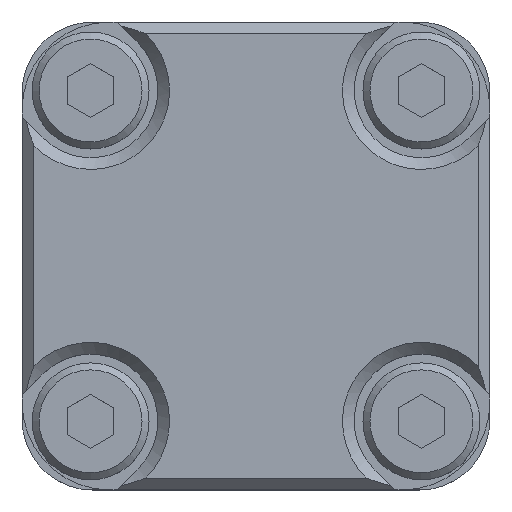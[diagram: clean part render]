
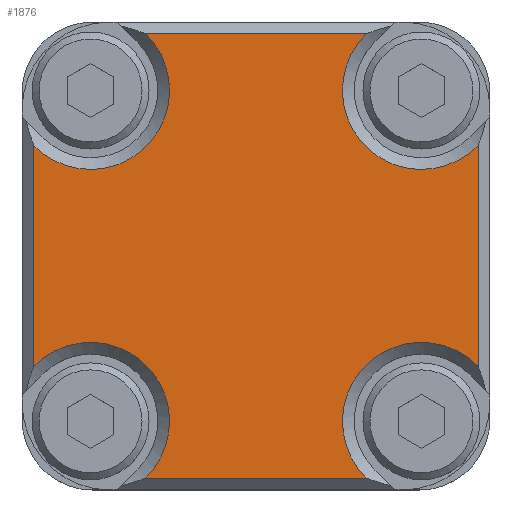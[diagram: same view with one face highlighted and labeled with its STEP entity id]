
A CAD part, top view. The second image highlights one B-rep face of the part: STEP entity #1876.
In plain terms, the highlighted planar face has unit normal (0, 0, 1).
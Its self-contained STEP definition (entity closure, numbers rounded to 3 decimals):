
#355=LINE('',#10403,#692);
#356=LINE('',#10407,#693);
#357=LINE('',#10411,#694);
#358=LINE('',#10415,#695);
#692=VECTOR('',#8433,1.);
#693=VECTOR('',#8436,1.);
#694=VECTOR('',#8439,1.);
#695=VECTOR('',#8442,1.);
#1262=FACE_OUTER_BOUND('',#2953,.T.);
#1876=ADVANCED_FACE('',(#1262),#2306,.T.);
#2306=PLANE('',#7452);
#2953=EDGE_LOOP('',(#3768,#3769,#3770,#3771,#3772,#3773,#3774,#3775));
#3768=ORIENTED_EDGE('',*,*,#6181,.T.);
#3769=ORIENTED_EDGE('',*,*,#6182,.T.);
#3770=ORIENTED_EDGE('',*,*,#6183,.T.);
#3771=ORIENTED_EDGE('',*,*,#6184,.T.);
#3772=ORIENTED_EDGE('',*,*,#6185,.T.);
#3773=ORIENTED_EDGE('',*,*,#6186,.T.);
#3774=ORIENTED_EDGE('',*,*,#6187,.T.);
#3775=ORIENTED_EDGE('',*,*,#6188,.T.);
#5471=VERTEX_POINT('',#10401);
#5472=VERTEX_POINT('',#10402);
#5473=VERTEX_POINT('',#10404);
#5474=VERTEX_POINT('',#10406);
#5475=VERTEX_POINT('',#10408);
#5476=VERTEX_POINT('',#10410);
#5477=VERTEX_POINT('',#10412);
#5478=VERTEX_POINT('',#10414);
#6181=EDGE_CURVE('',#5471,#5472,#7050,.T.);
#6182=EDGE_CURVE('',#5472,#5473,#355,.T.);
#6183=EDGE_CURVE('',#5473,#5474,#7051,.T.);
#6184=EDGE_CURVE('',#5474,#5475,#356,.T.);
#6185=EDGE_CURVE('',#5475,#5476,#7052,.T.);
#6186=EDGE_CURVE('',#5476,#5477,#357,.T.);
#6187=EDGE_CURVE('',#5477,#5478,#7053,.T.);
#6188=EDGE_CURVE('',#5478,#5471,#358,.T.);
#7050=CIRCLE('',#7448,6.75);
#7051=CIRCLE('',#7449,6.75);
#7052=CIRCLE('',#7450,6.75);
#7053=CIRCLE('',#7451,6.75);
#7448=AXIS2_PLACEMENT_3D('',#10400,#8431,#8432);
#7449=AXIS2_PLACEMENT_3D('',#10405,#8434,#8435);
#7450=AXIS2_PLACEMENT_3D('',#10409,#8437,#8438);
#7451=AXIS2_PLACEMENT_3D('',#10413,#8440,#8441);
#7452=AXIS2_PLACEMENT_3D('',#10416,#8443,#8444);
#8431=DIRECTION('',(0.,0.,-1.));
#8432=DIRECTION('',(1.,0.,0.));
#8433=DIRECTION('',(0.,1.,0.));
#8434=DIRECTION('',(0.,0.,-1.));
#8435=DIRECTION('',(0.,1.,0.));
#8436=DIRECTION('',(-1.,0.,0.));
#8437=DIRECTION('',(0.,0.,-1.));
#8438=DIRECTION('',(-1.,0.,0.));
#8439=DIRECTION('',(0.,-1.,0.));
#8440=DIRECTION('',(0.,0.,-1.));
#8441=DIRECTION('',(0.,-1.,0.));
#8442=DIRECTION('',(1.,0.,0.));
#8443=DIRECTION('',(0.,0.,1.));
#8444=DIRECTION('',(-1.,0.,0.));
#10400=CARTESIAN_POINT('',(14.142,-14.142,105.6));
#10401=CARTESIAN_POINT('',(9.456,-19.,105.6));
#10402=CARTESIAN_POINT('',(19.,-9.456,105.6));
#10403=CARTESIAN_POINT('',(19.,12.5,105.6));
#10404=CARTESIAN_POINT('',(19.,9.456,105.6));
#10405=CARTESIAN_POINT('',(14.142,14.142,105.6));
#10406=CARTESIAN_POINT('',(9.456,19.,105.6));
#10407=CARTESIAN_POINT('',(-12.5,19.,105.6));
#10408=CARTESIAN_POINT('',(-9.456,19.,105.6));
#10409=CARTESIAN_POINT('',(-14.142,14.142,105.6));
#10410=CARTESIAN_POINT('',(-19.,9.456,105.6));
#10411=CARTESIAN_POINT('',(-19.,12.5,105.6));
#10412=CARTESIAN_POINT('',(-19.,-9.456,105.6));
#10413=CARTESIAN_POINT('',(-14.142,-14.142,105.6));
#10414=CARTESIAN_POINT('',(-9.456,-19.,105.6));
#10415=CARTESIAN_POINT('',(-12.5,-19.,105.6));
#10416=CARTESIAN_POINT('',(-12.5,12.5,105.6));
